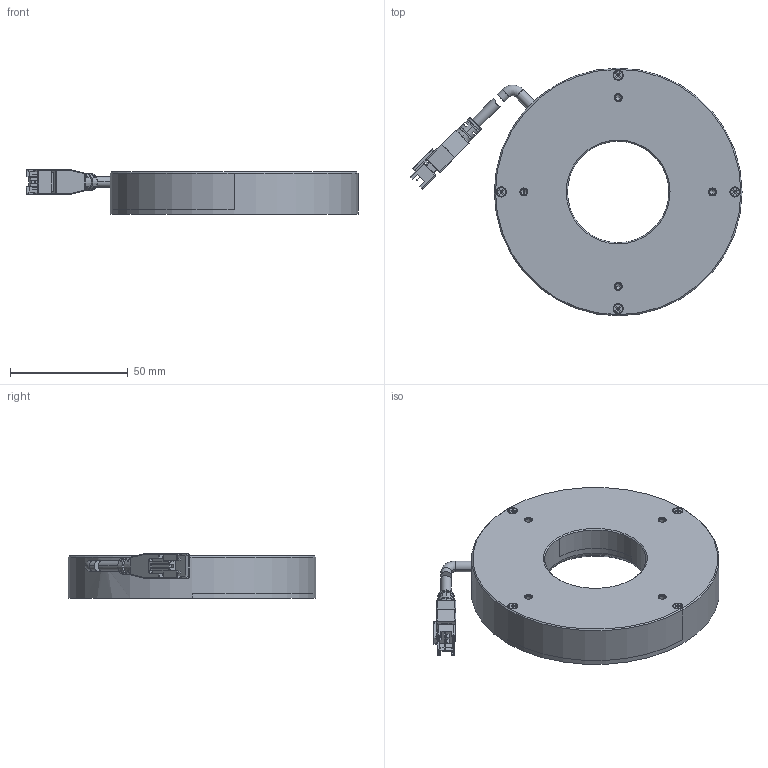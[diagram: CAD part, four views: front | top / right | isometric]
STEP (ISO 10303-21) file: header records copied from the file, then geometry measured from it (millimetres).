
FILE_DESCRIPTION((''),'2;1');
FILE_NAME('105-60','2024-01-30T11:36:44',('qiaoxuan5'),(''),'CREO PARAMETRIC BY PTC INC, 2020044','CREO PARAMETRIC BY PTC INC, 2020044','');
FILE_SCHEMA(('CONFIG_CONTROL_DESIGN'));
Length unit declared in the file: millimetre
Products named in the file (1): 105-60
Bounding box: 140.74 x 105 x 19 mm (x, y, z)
Volume: 110823.8 mm3; surface area: 43016 mm2
Topology: 2 solids, 39 shells, 745 faces, 1806 edges, 1117 vertices
Faces by surface type: plane 384, cylinder 218, cone 92, torus 34, sphere 8, bspline 8, extrusion 1
Entity records: 23972 total; most frequent: CARTESIAN_POINT 6560, DIRECTION 3699, ORIENTED_EDGE 3468, EDGE_CURVE 1774, AXIS2_PLACEMENT_3D 1343, VERTEX_POINT 1117, VECTOR 1013, LINE 1012
